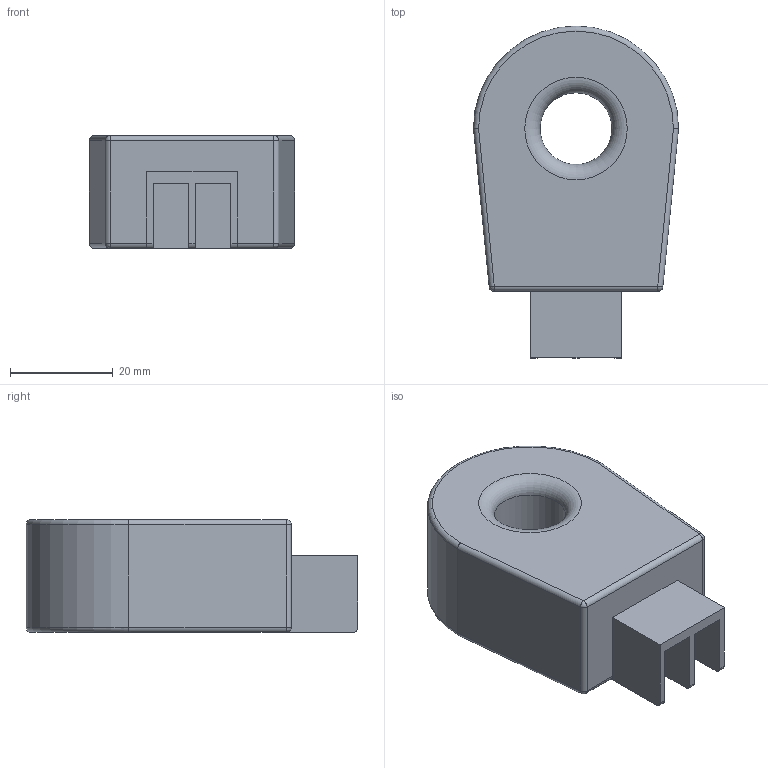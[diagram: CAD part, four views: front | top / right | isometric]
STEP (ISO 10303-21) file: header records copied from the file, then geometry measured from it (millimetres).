
FILE_DESCRIPTION(/* description */ ('Alibre Inc.'),/* implementation_level */ '2;1');
FILE_NAME(/* name */ 'export0',/* time_stamp */ '2013-07-08T13:13:41-06:00',/* author */ (''),/* organization */ (''),/* preprocessor_version */ 'ST-DEVELOPER v14',/* originating_system */ 'Alibre',/* authorisation */ '');
FILE_SCHEMA (('ALIBRE_SCHEMA','CONFIG_CONTROL_DESIGN'));
Length unit declared in the file: centimetre
Products named in the file (1): ID_1
Bounding box: 40 x 64.7 x 22 mm (x, y, z)
Volume: 37905.6 mm3; surface area: 8782.6 mm2
Topology: 1 solids, 1 shells, 39 faces, 97 edges, 56 vertices
Faces by surface type: plane 17, cylinder 14, torus 4, sphere 4
Full cylindrical faces by diameter (mm): 14 x1
Entity records: 2502 total; most frequent: CARTESIAN_POINT 382, DIRECTION 243, ORIENTED_EDGE 180, VECTOR 124, REFERENCEDEPENDENTUV 114, CONSTRAINTPAIRUV 112, PERSISTANTTOPOLOGYATTRIBUTE 103, LINE 93
